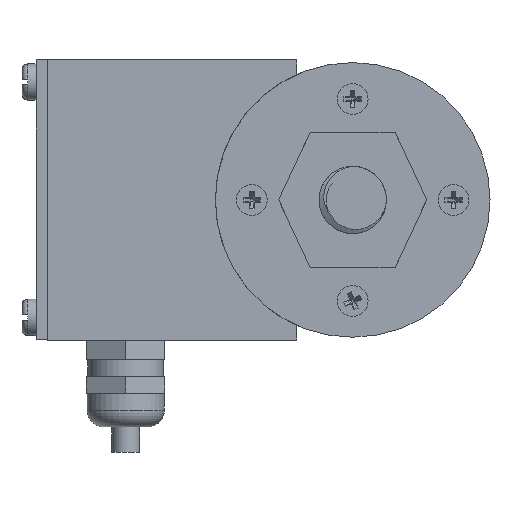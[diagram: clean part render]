
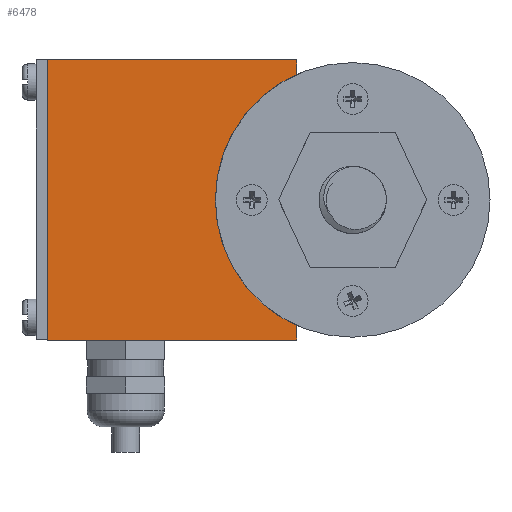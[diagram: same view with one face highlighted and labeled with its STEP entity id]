
A CAD part, front view. The second image highlights one B-rep face of the part: STEP entity #6478.
In plain terms, the highlighted planar face has unit normal (0, -1, 0).
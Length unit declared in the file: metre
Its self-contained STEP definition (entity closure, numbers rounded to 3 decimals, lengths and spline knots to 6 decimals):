
#189 = LINE ( 'NONE', #6116, #192 ) ;
#192 = VECTOR ( 'NONE', #6117, 1. ) ;
#258 = VERTEX_POINT ( 'NONE', #1545 ) ;
#299 = VERTEX_POINT ( 'NONE', #1559 ) ;
#522 = LINE ( 'NONE', #8080, #527 ) ;
#527 = VECTOR ( 'NONE', #8089, 1. ) ;
#624 = LINE ( 'NONE', #8564, #627 ) ;
#627 = VECTOR ( 'NONE', #8566, 1. ) ;
#635 = LINE ( 'NONE', #8775, #637 ) ;
#637 = VECTOR ( 'NONE', #8774, 1. ) ;
#1054 = EDGE_CURVE ( 'NONE', #1477, #258, #522, .T. ) ;
#1204 = EDGE_LOOP ( 'NONE', ( #3429, #3464, #3490, #3423, #3498, #3494 ) ) ;
#1401 = EDGE_CURVE ( 'NONE', #6800, #299, #624, .T. ) ;
#1409 = EDGE_CURVE ( 'NONE', #258, #3520, #635, .T. ) ;
#1477 = VERTEX_POINT ( 'NONE', #8944 ) ;
#1545 = CARTESIAN_POINT ( 'NONE',  ( -0.06623, 0.016431, 0.03275 ) ) ;
#1559 = CARTESIAN_POINT ( 'NONE',  ( -0.02173, 0.016431, -0.01725 ) ) ;
#2441 = FACE_OUTER_BOUND ( 'NONE', #1204, .T. ) ;
#2807 = PLANE ( 'NONE',  #5865 ) ;
#2819 = CARTESIAN_POINT ( 'NONE',  ( -0.01173, 0.016431, 0.00775 ) ) ;
#2820 = DIRECTION ( 'NONE',  ( 0., 1., 0. ) ) ;
#2821 = DIRECTION ( 'NONE',  ( 0., 0., 1. ) ) ;
#3063 = CARTESIAN_POINT ( 'NONE',  ( -0.02173, 0.016431, -0.014616 ) ) ;
#3065 = CARTESIAN_POINT ( 'NONE',  ( -0.02173, 0.016431, 0.030116 ) ) ;
#3423 = ORIENTED_EDGE ( 'NONE', *, *, #1409, .F. ) ;
#3429 = ORIENTED_EDGE ( 'NONE', *, *, #1401, .F. ) ;
#3464 = ORIENTED_EDGE ( 'NONE', *, *, #11481, .T. ) ;
#3490 = ORIENTED_EDGE ( 'NONE', *, *, #12235, .F. ) ;
#3494 = ORIENTED_EDGE ( 'NONE', *, *, #8545, .F. ) ;
#3498 = ORIENTED_EDGE ( 'NONE', *, *, #1054, .F. ) ;
#3520 = VERTEX_POINT ( 'NONE', #8996 ) ;
#3601 = AXIS2_PLACEMENT_3D ( 'NONE', #5294, #5295, #5296 ) ;
#4252 = CARTESIAN_POINT ( 'NONE',  ( -0.06623, 0.016431, -0.01725 ) ) ;
#4257 = DIRECTION ( 'NONE',  ( -1., 0., 0. ) ) ;
#4779 = LINE ( 'NONE', #4252, #4784 ) ;
#4784 = VECTOR ( 'NONE', #4257, 1. ) ;
#5024 = CIRCLE ( 'NONE', #3601, 0.0245 ) ;
#5294 = CARTESIAN_POINT ( 'NONE',  ( -0.01173, 0.016431, 0.00775 ) ) ;
#5295 = DIRECTION ( 'NONE',  ( 0., 1., 0. ) ) ;
#5296 = DIRECTION ( 'NONE',  ( 0., 0., 1. ) ) ;
#5865 = AXIS2_PLACEMENT_3D ( 'NONE', #2819, #2820, #2821 ) ;
#6116 = CARTESIAN_POINT ( 'NONE',  ( -0.02173, 0.016431, -0.01725 ) ) ;
#6117 = DIRECTION ( 'NONE',  ( 0., 0., -1. ) ) ;
#6478 = ADVANCED_FACE ( 'NONE', ( #2441 ), #2807, .F. ) ;
#6800 = VERTEX_POINT ( 'NONE', #3063 ) ;
#6802 = VERTEX_POINT ( 'NONE', #3065 ) ;
#8080 = CARTESIAN_POINT ( 'NONE',  ( -0.06623, 0.016431, -0.01725 ) ) ;
#8089 = DIRECTION ( 'NONE',  ( 0., 0., 1. ) ) ;
#8545 = EDGE_CURVE ( 'NONE', #299, #1477, #4779, .T. ) ;
#8564 = CARTESIAN_POINT ( 'NONE',  ( -0.02173, 0.016431, -0.01725 ) ) ;
#8566 = DIRECTION ( 'NONE',  ( 0., 0., -1. ) ) ;
#8774 = DIRECTION ( 'NONE',  ( 1., 0., 0. ) ) ;
#8775 = CARTESIAN_POINT ( 'NONE',  ( -0.06623, 0.016431, 0.03275 ) ) ;
#8944 = CARTESIAN_POINT ( 'NONE',  ( -0.06623, 0.016431, -0.01725 ) ) ;
#8996 = CARTESIAN_POINT ( 'NONE',  ( -0.02173, 0.016431, 0.03275 ) ) ;
#11481 = EDGE_CURVE ( 'NONE', #6800, #6802, #5024, .T. ) ;
#12235 = EDGE_CURVE ( 'NONE', #3520, #6802, #189, .T. ) ;
